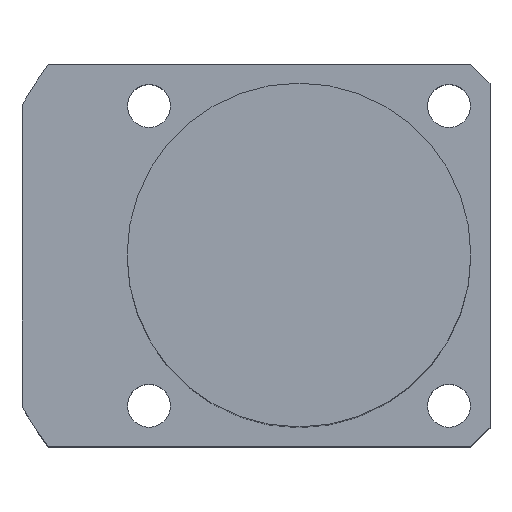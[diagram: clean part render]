
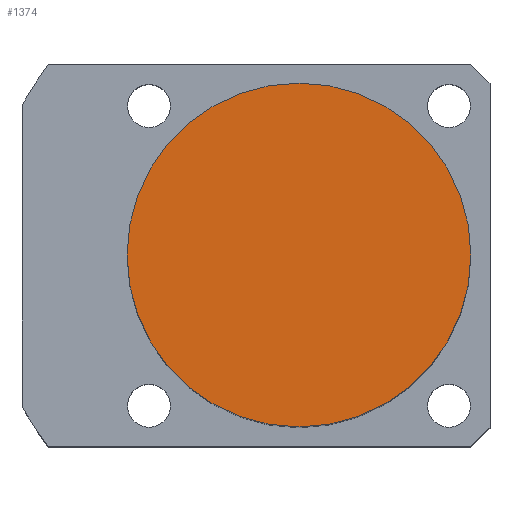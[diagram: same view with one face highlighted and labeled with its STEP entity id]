
A CAD part, top view. The second image highlights one B-rep face of the part: STEP entity #1374.
In plain terms, the highlighted planar face has unit normal (0, 0, 1).
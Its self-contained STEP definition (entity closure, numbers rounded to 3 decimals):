
#1316=CARTESIAN_POINT('',(-0.0,18.0,58.5));
#1317=VERTEX_POINT('',#1316);
#1324=CARTESIAN_POINT('',(18.0,0.0,58.5));
#1325=VERTEX_POINT('',#1324);
#1326=CARTESIAN_POINT('',(0.0,0.0,58.5));
#1327=DIRECTION('',(0.0,0.0,1.0));
#1328=DIRECTION('',(1.0,0.0,0.0));
#1329=AXIS2_PLACEMENT_3D('',#1326,#1327,#1328);
#1330=CIRCLE('',#1329,18.0);
#1331=EDGE_CURVE('no 1739',#1325,#1317,#1330,.T.);
#1333=CARTESIAN_POINT('',(-0.0,-18.0,58.5));
#1334=VERTEX_POINT('',#1333);
#1335=CARTESIAN_POINT('',(0.0,0.0,58.5));
#1336=DIRECTION('',(0.0,0.0,1.0));
#1337=DIRECTION('',(1.0,0.0,0.0));
#1338=AXIS2_PLACEMENT_3D('',#1335,#1336,#1337);
#1339=CIRCLE('',#1338,18.0);
#1340=EDGE_CURVE('no 1745',#1334,#1325,#1339,.T.);
#1358=ORIENTED_EDGE('',*,*,#1331,.T.);
#1359=CARTESIAN_POINT('',(0.0,0.0,58.5));
#1360=DIRECTION('',(0.0,0.0,1.0));
#1361=DIRECTION('',(1.0,0.0,0.0));
#1362=AXIS2_PLACEMENT_3D('',#1359,#1360,#1361);
#1363=CIRCLE('',#1362,18.0);
#1364=EDGE_CURVE('no 1762',#1317,#1334,#1363,.T.);
#1365=ORIENTED_EDGE('',*,*,#1364,.T.);
#1366=ORIENTED_EDGE('',*,*,#1340,.T.);
#1367=EDGE_LOOP('',(#1358,#1365,#1366));
#1368=FACE_OUTER_BOUND('',#1367,.T.);
#1369=CARTESIAN_POINT('',(0.0,0.0,58.5));
#1370=DIRECTION('',(0.0,0.0,1.0));
#1371=DIRECTION('',(1.0,0.0,0.0));
#1372=AXIS2_PLACEMENT_3D('',#1369,#1370,#1371);
#1373=PLANE('',#1372);
#1374=ADVANCED_FACE('no 1755',(#1368),#1373,.T.);
